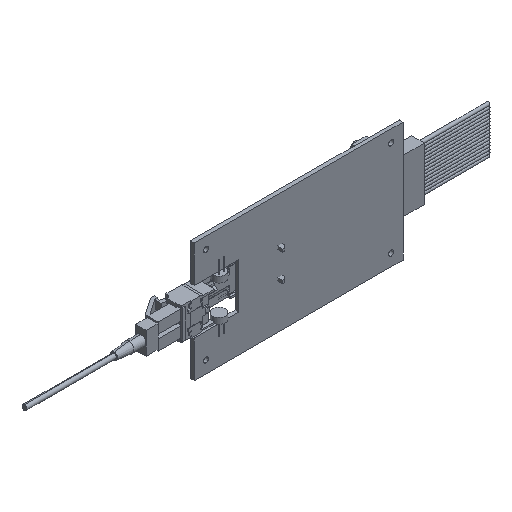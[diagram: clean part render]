
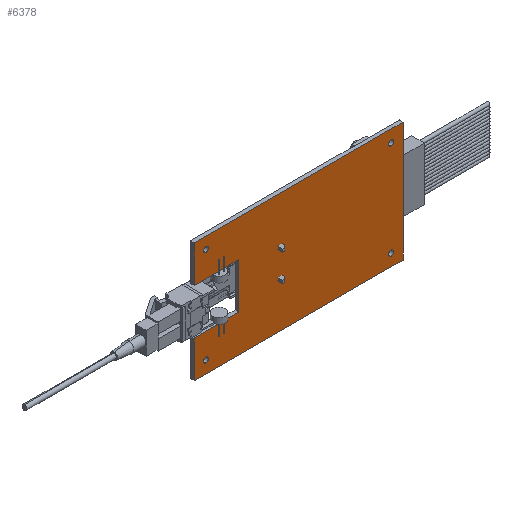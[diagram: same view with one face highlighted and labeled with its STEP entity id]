
A CAD part, isometric view. The second image highlights one B-rep face of the part: STEP entity #6378.
In plain terms, the highlighted planar face has unit normal (0, -1, 0).
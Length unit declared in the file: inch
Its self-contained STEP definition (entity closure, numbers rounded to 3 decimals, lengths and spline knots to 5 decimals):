
#67 = LINE ( 'NONE', #9830, #34386 ) ;
#718 = EDGE_CURVE ( 'NONE', #19396, #21407, #32386, .T. ) ;
#1148 = CARTESIAN_POINT ( 'NONE',  ( -1., -0.0315, -0.38 ) ) ;
#1295 = FACE_BOUND ( 'NONE', #11838, .T. ) ;
#1339 = VERTEX_POINT ( 'NONE', #36367 ) ;
#2009 = VERTEX_POINT ( 'NONE', #35639 ) ;
#2042 = EDGE_CURVE ( 'NONE', #37142, #27549, #7883, .T. ) ;
#2087 = CIRCLE ( 'NONE', #12641, 0.0425 ) ;
#2139 = AXIS2_PLACEMENT_3D ( 'NONE', #31560, #14244, #22944 ) ;
#2208 = EDGE_CURVE ( 'NONE', #2476, #22896, #30476, .T. ) ;
#2476 = VERTEX_POINT ( 'NONE', #6191 ) ;
#3448 = CIRCLE ( 'NONE', #28077, 0.0425 ) ;
#3905 = EDGE_LOOP ( 'NONE', ( #30695, #12919 ) ) ;
#4005 = CARTESIAN_POINT ( 'NONE',  ( -1.75, -0.0315, -0.38 ) ) ;
#4125 = DIRECTION ( 'NONE',  ( 0., 0., 1. ) ) ;
#4245 = EDGE_LOOP ( 'NONE', ( #36813, #11211, #6764, #33268, #9195, #17694, #11768, #15288 ) ) ;
#4548 = LINE ( 'NONE', #4005, #32114 ) ;
#4809 = CARTESIAN_POINT ( 'NONE',  ( 1.55, -0.0315, 0.8 ) ) ;
#5068 = DIRECTION ( 'NONE',  ( 0., 1., 0. ) ) ;
#5166 = EDGE_CURVE ( 'NONE', #6824, #28764, #4548, .T. ) ;
#5277 = CARTESIAN_POINT ( 'NONE',  ( -1., -0.0315, 0.38 ) ) ;
#6191 = CARTESIAN_POINT ( 'NONE',  ( 1.55, -0.0315, 0.8425 ) ) ;
#6378 = ADVANCED_FACE ( 'NONE', ( #10743, #17523, #1295, #28837, #34245 ), #26691, .T. ) ;
#6492 = AXIS2_PLACEMENT_3D ( 'NONE', #16762, #11447, #22805 ) ;
#6764 = ORIENTED_EDGE ( 'NONE', *, *, #21875, .F. ) ;
#6824 = VERTEX_POINT ( 'NONE', #11239 ) ;
#7590 = CARTESIAN_POINT ( 'NONE',  ( -1.55, -0.0315, -0.7575 ) ) ;
#7735 = VERTEX_POINT ( 'NONE', #36835 ) ;
#7883 = LINE ( 'NONE', #7930, #19170 ) ;
#7930 = CARTESIAN_POINT ( 'NONE',  ( -1.75, -0.0315, -1. ) ) ;
#8476 = EDGE_CURVE ( 'NONE', #34248, #23598, #3448, .T. ) ;
#8553 = DIRECTION ( 'NONE',  ( 0., 0., 1. ) ) ;
#8734 = LINE ( 'NONE', #28377, #30456 ) ;
#8739 = DIRECTION ( 'NONE',  ( 0., 0., 1. ) ) ;
#8878 = DIRECTION ( 'NONE',  ( 0., -1., 0. ) ) ;
#9024 = EDGE_LOOP ( 'NONE', ( #25623, #23334 ) ) ;
#9108 = CARTESIAN_POINT ( 'NONE',  ( 1.55, -0.0315, -0.8 ) ) ;
#9195 = ORIENTED_EDGE ( 'NONE', *, *, #15782, .F. ) ;
#9830 = CARTESIAN_POINT ( 'NONE',  ( 1.75, -0.0315, 1. ) ) ;
#10016 = VECTOR ( 'NONE', #21727, 39.37008 ) ;
#10214 = CIRCLE ( 'NONE', #29586, 0.0425 ) ;
#10743 = FACE_BOUND ( 'NONE', #3905, .T. ) ;
#11102 = LINE ( 'NONE', #34890, #36863 ) ;
#11178 = CARTESIAN_POINT ( 'NONE',  ( -1.75, -0.0315, -1. ) ) ;
#11211 = ORIENTED_EDGE ( 'NONE', *, *, #30279, .F. ) ;
#11239 = CARTESIAN_POINT ( 'NONE',  ( -1.75, -0.0315, -0.38 ) ) ;
#11246 = EDGE_CURVE ( 'NONE', #2009, #37142, #67, .T. ) ;
#11447 = DIRECTION ( 'NONE',  ( 0., 1., 0. ) ) ;
#11768 = ORIENTED_EDGE ( 'NONE', *, *, #23093, .F. ) ;
#11838 = EDGE_LOOP ( 'NONE', ( #25462, #14833 ) ) ;
#12066 = EDGE_CURVE ( 'NONE', #23598, #34248, #35230, .T. ) ;
#12291 = CARTESIAN_POINT ( 'NONE',  ( -1.55, -0.0315, 0.8 ) ) ;
#12319 = LINE ( 'NONE', #12607, #23644 ) ;
#12607 = CARTESIAN_POINT ( 'NONE',  ( -1.75, -0.0315, -0.38 ) ) ;
#12641 = AXIS2_PLACEMENT_3D ( 'NONE', #20101, #19605, #17086 ) ;
#12672 = DIRECTION ( 'NONE',  ( 0., 1., 0. ) ) ;
#12919 = ORIENTED_EDGE ( 'NONE', *, *, #718, .T. ) ;
#13737 = DIRECTION ( 'NONE',  ( -1., 0., 0. ) ) ;
#14244 = DIRECTION ( 'NONE',  ( 0., 1., 0. ) ) ;
#14833 = ORIENTED_EDGE ( 'NONE', *, *, #8476, .T. ) ;
#14965 = VECTOR ( 'NONE', #21213, 39.37008 ) ;
#15029 = VERTEX_POINT ( 'NONE', #36254 ) ;
#15288 = ORIENTED_EDGE ( 'NONE', *, *, #2042, .F. ) ;
#15453 = DIRECTION ( 'NONE',  ( 0., 0., 1. ) ) ;
#15782 = EDGE_CURVE ( 'NONE', #28764, #31758, #11102, .T. ) ;
#15940 = CARTESIAN_POINT ( 'NONE',  ( -1.75, -0.0315, 1. ) ) ;
#16762 = CARTESIAN_POINT ( 'NONE',  ( -1.55, -0.0315, -0.8 ) ) ;
#16773 = DIRECTION ( 'NONE',  ( 0., 1., 0. ) ) ;
#17086 = DIRECTION ( 'NONE',  ( 0., 0., 1. ) ) ;
#17523 = FACE_BOUND ( 'NONE', #9024, .T. ) ;
#17694 = ORIENTED_EDGE ( 'NONE', *, *, #5166, .F. ) ;
#19170 = VECTOR ( 'NONE', #13737, 39.37008 ) ;
#19321 = EDGE_CURVE ( 'NONE', #22896, #2476, #27015, .T. ) ;
#19396 = VERTEX_POINT ( 'NONE', #23581 ) ;
#19605 = DIRECTION ( 'NONE',  ( 0., 1., 0. ) ) ;
#20024 = DIRECTION ( 'NONE',  ( 0., 0., 1. ) ) ;
#20101 = CARTESIAN_POINT ( 'NONE',  ( -1.55, -0.0315, -0.8 ) ) ;
#20360 = LINE ( 'NONE', #24639, #14965 ) ;
#20951 = CARTESIAN_POINT ( 'NONE',  ( -1.55, -0.0315, 0.8425 ) ) ;
#21185 = DIRECTION ( 'NONE',  ( 0., 0., 1. ) ) ;
#21213 = DIRECTION ( 'NONE',  ( -1., 0., 0. ) ) ;
#21407 = VERTEX_POINT ( 'NONE', #20951 ) ;
#21574 = ORIENTED_EDGE ( 'NONE', *, *, #31735, .T. ) ;
#21727 = DIRECTION ( 'NONE',  ( 1., 0., 0. ) ) ;
#21803 = AXIS2_PLACEMENT_3D ( 'NONE', #35543, #27113, #4125 ) ;
#21875 = EDGE_CURVE ( 'NONE', #1339, #7735, #8734, .T. ) ;
#22105 = CARTESIAN_POINT ( 'NONE',  ( 1.75, -0.0315, -1. ) ) ;
#22216 = LINE ( 'NONE', #15940, #10016 ) ;
#22599 = VERTEX_POINT ( 'NONE', #7590 ) ;
#22619 = AXIS2_PLACEMENT_3D ( 'NONE', #12291, #12672, #15453 ) ;
#22805 = DIRECTION ( 'NONE',  ( 0., 0., 1. ) ) ;
#22896 = VERTEX_POINT ( 'NONE', #28806 ) ;
#22944 = DIRECTION ( 'NONE',  ( 0., 0., 1. ) ) ;
#23093 = EDGE_CURVE ( 'NONE', #27549, #6824, #12319, .T. ) ;
#23334 = ORIENTED_EDGE ( 'NONE', *, *, #19321, .T. ) ;
#23581 = CARTESIAN_POINT ( 'NONE',  ( -1.55, -0.0315, 0.7575 ) ) ;
#23598 = VERTEX_POINT ( 'NONE', #32275 ) ;
#23644 = VECTOR ( 'NONE', #21185, 39.37008 ) ;
#24639 = CARTESIAN_POINT ( 'NONE',  ( -1.75, -0.0315, 0.38 ) ) ;
#25079 = EDGE_CURVE ( 'NONE', #31758, #1339, #20360, .T. ) ;
#25378 = DIRECTION ( 'NONE',  ( 0., 0., 1. ) ) ;
#25462 = ORIENTED_EDGE ( 'NONE', *, *, #12066, .T. ) ;
#25554 = DIRECTION ( 'NONE',  ( 1., 0., 0. ) ) ;
#25622 = ORIENTED_EDGE ( 'NONE', *, *, #27902, .T. ) ;
#25623 = ORIENTED_EDGE ( 'NONE', *, *, #2208, .T. ) ;
#26165 = DIRECTION ( 'NONE',  ( 0., 1., 0. ) ) ;
#26198 = CARTESIAN_POINT ( 'NONE',  ( 0., -0.0315, 0. ) ) ;
#26691 = PLANE ( 'NONE',  #35740 ) ;
#27015 = CIRCLE ( 'NONE', #2139, 0.0425 ) ;
#27113 = DIRECTION ( 'NONE',  ( 0., 1., 0. ) ) ;
#27549 = VERTEX_POINT ( 'NONE', #11178 ) ;
#27902 = EDGE_CURVE ( 'NONE', #15029, #22599, #2087, .T. ) ;
#28077 = AXIS2_PLACEMENT_3D ( 'NONE', #9108, #26165, #32100 ) ;
#28377 = CARTESIAN_POINT ( 'NONE',  ( -1.75, -0.0315, 1. ) ) ;
#28764 = VERTEX_POINT ( 'NONE', #1148 ) ;
#28806 = CARTESIAN_POINT ( 'NONE',  ( 1.55, -0.0315, 0.7575 ) ) ;
#28837 = FACE_BOUND ( 'NONE', #31913, .T. ) ;
#29110 = DIRECTION ( 'NONE',  ( 0., 0., -1. ) ) ;
#29393 = CIRCLE ( 'NONE', #6492, 0.0425 ) ;
#29586 = AXIS2_PLACEMENT_3D ( 'NONE', #37079, #16773, #8553 ) ;
#30279 = EDGE_CURVE ( 'NONE', #7735, #2009, #22216, .T. ) ;
#30456 = VECTOR ( 'NONE', #20024, 39.37008 ) ;
#30476 = CIRCLE ( 'NONE', #34016, 0.0425 ) ;
#30695 = ORIENTED_EDGE ( 'NONE', *, *, #35249, .T. ) ;
#31560 = CARTESIAN_POINT ( 'NONE',  ( 1.55, -0.0315, 0.8 ) ) ;
#31735 = EDGE_CURVE ( 'NONE', #22599, #15029, #29393, .T. ) ;
#31758 = VERTEX_POINT ( 'NONE', #5277 ) ;
#31761 = CARTESIAN_POINT ( 'NONE',  ( 1.55, -0.0315, -0.8425 ) ) ;
#31913 = EDGE_LOOP ( 'NONE', ( #21574, #25622 ) ) ;
#32100 = DIRECTION ( 'NONE',  ( 0., 0., 1. ) ) ;
#32114 = VECTOR ( 'NONE', #25554, 39.37008 ) ;
#32275 = CARTESIAN_POINT ( 'NONE',  ( 1.55, -0.0315, -0.7575 ) ) ;
#32386 = CIRCLE ( 'NONE', #22619, 0.0425 ) ;
#32809 = DIRECTION ( 'NONE',  ( 0., 0., -1. ) ) ;
#33268 = ORIENTED_EDGE ( 'NONE', *, *, #25079, .F. ) ;
#34016 = AXIS2_PLACEMENT_3D ( 'NONE', #4809, #5068, #25378 ) ;
#34245 = FACE_OUTER_BOUND ( 'NONE', #4245, .T. ) ;
#34248 = VERTEX_POINT ( 'NONE', #31761 ) ;
#34386 = VECTOR ( 'NONE', #32809, 39.37008 ) ;
#34890 = CARTESIAN_POINT ( 'NONE',  ( -1., -0.0315, -0.38 ) ) ;
#35230 = CIRCLE ( 'NONE', #21803, 0.0425 ) ;
#35249 = EDGE_CURVE ( 'NONE', #21407, #19396, #10214, .T. ) ;
#35543 = CARTESIAN_POINT ( 'NONE',  ( 1.55, -0.0315, -0.8 ) ) ;
#35639 = CARTESIAN_POINT ( 'NONE',  ( 1.75, -0.0315, 1. ) ) ;
#35740 = AXIS2_PLACEMENT_3D ( 'NONE', #26198, #8878, #29110 ) ;
#36254 = CARTESIAN_POINT ( 'NONE',  ( -1.55, -0.0315, -0.8425 ) ) ;
#36367 = CARTESIAN_POINT ( 'NONE',  ( -1.75, -0.0315, 0.38 ) ) ;
#36813 = ORIENTED_EDGE ( 'NONE', *, *, #11246, .F. ) ;
#36835 = CARTESIAN_POINT ( 'NONE',  ( -1.75, -0.0315, 1. ) ) ;
#36863 = VECTOR ( 'NONE', #8739, 39.37008 ) ;
#37079 = CARTESIAN_POINT ( 'NONE',  ( -1.55, -0.0315, 0.8 ) ) ;
#37142 = VERTEX_POINT ( 'NONE', #22105 ) ;
